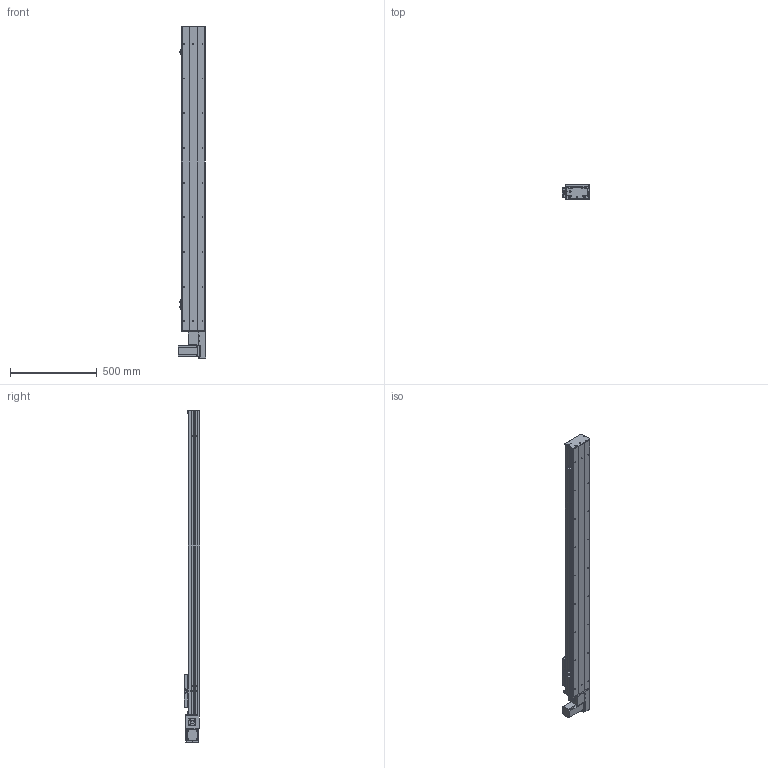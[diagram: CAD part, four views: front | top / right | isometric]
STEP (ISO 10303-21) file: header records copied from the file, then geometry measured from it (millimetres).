
FILE_DESCRIPTION (( 'STEP AP203' ), '1' );
FILE_NAME ('Y135CB-D90-S1450-BL-P400W.STEP', '2020-02-17T09:17:03', ( '微软用户' ), ( '微软中国' ), 'SwSTEP 2.0', 'SolidWorks 2017', '' );
FILE_SCHEMA (( 'CONFIG_CONTROL_DESIGN' ));
Length unit declared in the file: millimetre
Products named in the file (18): C-詩湍揤踡え-陔; Y10B-耜蚾蟀諉啣----; 135CB--詩湍-CE; Y俋欶BR----; Y100-135俋离換覜ん--; 0B-埴倛裔啣; Y135C-陔俋离換覜結え-; 0B-源倛裔啣; 5C--俋欶; 0B-萇儂楊擘啣; Y135CB-耜裔; C-雄赽釱--; san松下电机400不带刹车----; 135CB---遴掛极.-; Y135CB-D90-S1450-BL-P400W; 35CB---喘謫眊楊擘啣; 5CB --掛极耜裔啣-; Y10B--々湍喘謫眊--666
Assembly tree (21 placements, depth 2):
  Y135CB-D90-S1450-BL-P400W
    Y135CB-耜裔
    135CB---遴掛极.-
    35CB---喘謫眊楊擘啣
    Y10B--々湍喘謫眊--666
    Y10B-耜蚾蟀諉啣----
    Y俋欶BR----
    0B-埴倛裔啣
    0B-源倛裔啣
    0B-萇儂楊擘啣
    san松下电机400不带刹车----
    5CB --掛极耜裔啣-  x2
    C-詩湍揤踡え-陔  x2
    135CB--詩湍-CE
    Y100-135俋离換覜ん--  x3
    Y135C-陔俋离換覜結え-
    5C--俋欶
    C-雄赽釱--
Bounding box: 157.5 x 91 x 1914.5 mm (x, y, z)
Volume: 5555969.3 mm3; surface area: 2186434.6 mm2
Topology: 21 solids, 21 shells, 953 faces, 2563 edges, 1698 vertices
Faces by surface type: cylinder 479, plane 458, cone 16
Entity records: 29745 total; most frequent: DIRECTION 4939, CARTESIAN_POINT 4900, ORIENTED_EDGE 4602, EDGE_CURVE 2301, AXIS2_PLACEMENT_3D 1801, VERTEX_POINT 1526, LINE 1337, VECTOR 1337
